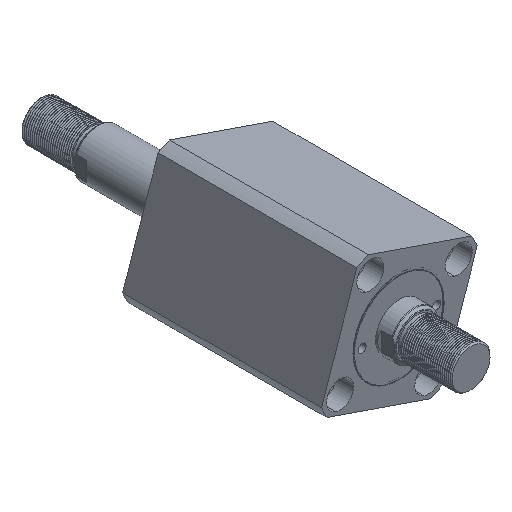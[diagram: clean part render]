
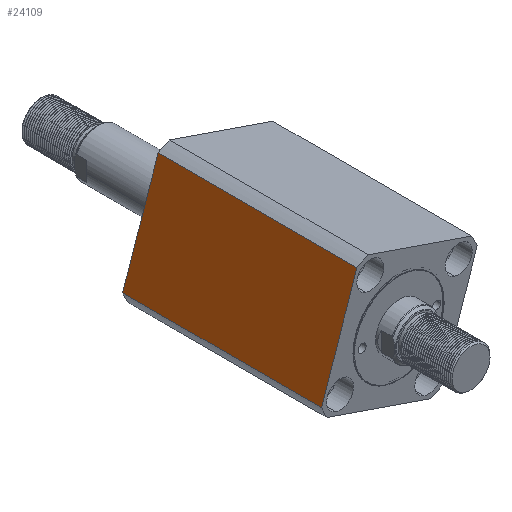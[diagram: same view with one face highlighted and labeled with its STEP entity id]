
A CAD part, isometric view. The second image highlights one B-rep face of the part: STEP entity #24109.
In plain terms, the highlighted planar face has unit normal (-0.946, 0, 0.324) as drawn and (0, 1, 0) by its records, which use the part's own axes.
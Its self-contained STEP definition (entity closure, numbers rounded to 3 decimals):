
#76 = DIRECTION ( 'NONE',  ( -1., 0., 0. ) ) ;
#719 = DIRECTION ( 'NONE',  ( 0., -1., 0. ) ) ;
#2187 = VERTEX_POINT ( 'NONE', #4262 ) ;
#2841 = DIRECTION ( 'NONE',  ( 0., 0., -1. ) ) ;
#3340 = VECTOR ( 'NONE', #76, 1000. ) ;
#3568 = AXIS2_PLACEMENT_3D ( 'NONE', #26247, #719, #15621 ) ;
#4172 = CARTESIAN_POINT ( 'NONE',  ( 40.435, 47., 0. ) ) ;
#4262 = CARTESIAN_POINT ( 'NONE',  ( -40.435, 47., 147. ) ) ;
#4647 = CARTESIAN_POINT ( 'NONE',  ( 40.435, 47., 147. ) ) ;
#5485 = ORIENTED_EDGE ( 'NONE', *, *, #21955, .T. ) ;
#6779 = ORIENTED_EDGE ( 'NONE', *, *, #15343, .F. ) ;
#7555 = VECTOR ( 'NONE', #25580, 1000. ) ;
#9458 = ORIENTED_EDGE ( 'NONE', *, *, #16411, .F. ) ;
#9660 = LINE ( 'NONE', #14972, #3340 ) ;
#11243 = CARTESIAN_POINT ( 'NONE',  ( -40.435, 47., 0. ) ) ;
#11564 = DIRECTION ( 'NONE',  ( -1., 0., 0. ) ) ;
#12982 = VERTEX_POINT ( 'NONE', #4647 ) ;
#13259 = LINE ( 'NONE', #22159, #23916 ) ;
#14972 = CARTESIAN_POINT ( 'NONE',  ( -47., 47., 147. ) ) ;
#15343 = EDGE_CURVE ( 'NONE', #12982, #2187, #9660, .T. ) ;
#15592 = CARTESIAN_POINT ( 'NONE',  ( -40.435, 47., 300. ) ) ;
#15621 = DIRECTION ( 'NONE',  ( 0., 0., -1. ) ) ;
#16411 = EDGE_CURVE ( 'NONE', #2187, #18652, #22957, .T. ) ;
#18652 = VERTEX_POINT ( 'NONE', #11243 ) ;
#19545 = LINE ( 'NONE', #23421, #7555 ) ;
#20910 = FACE_OUTER_BOUND ( 'NONE', #23458, .T. ) ;
#21955 = EDGE_CURVE ( 'NONE', #25699, #18652, #13259, .T. ) ;
#22159 = CARTESIAN_POINT ( 'NONE',  ( -47., 47., 0. ) ) ;
#22957 = LINE ( 'NONE', #15592, #23627 ) ;
#23421 = CARTESIAN_POINT ( 'NONE',  ( 40.435, 47., 300. ) ) ;
#23458 = EDGE_LOOP ( 'NONE', ( #9458, #6779, #26800, #5485 ) ) ;
#23627 = VECTOR ( 'NONE', #2841, 1000. ) ;
#23916 = VECTOR ( 'NONE', #11564, 1000. ) ;
#23990 = PLANE ( 'NONE',  #3568 ) ;
#24109 = ADVANCED_FACE ( 'NONE', ( #20910 ), #23990, .F. ) ;
#25580 = DIRECTION ( 'NONE',  ( 0., 0., 1. ) ) ;
#25699 = VERTEX_POINT ( 'NONE', #4172 ) ;
#25708 = EDGE_CURVE ( 'NONE', #25699, #12982, #19545, .T. ) ;
#26247 = CARTESIAN_POINT ( 'NONE',  ( -47., 47., 147. ) ) ;
#26800 = ORIENTED_EDGE ( 'NONE', *, *, #25708, .F. ) ;
